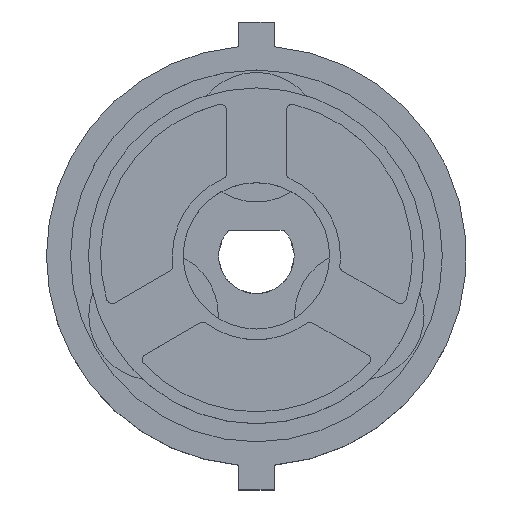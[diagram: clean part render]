
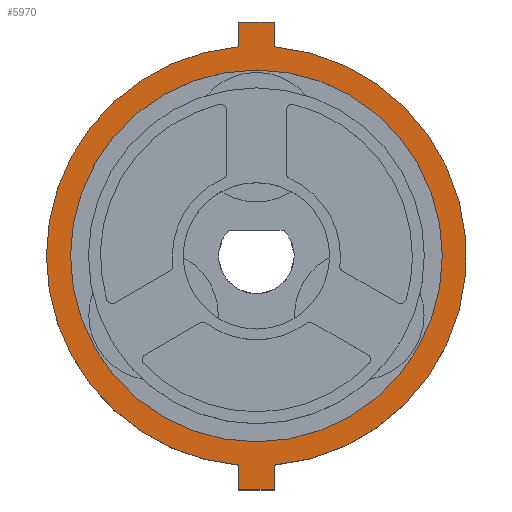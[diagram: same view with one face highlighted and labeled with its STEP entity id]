
A CAD part, top view. The second image highlights one B-rep face of the part: STEP entity #5970.
In plain terms, the highlighted planar face has unit normal (0, 0, 1).
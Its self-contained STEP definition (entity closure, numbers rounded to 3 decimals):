
#133 = CARTESIAN_POINT ( 'NONE',  ( 1.5, 17.436, 4.5 ) ) ;
#269 = ORIENTED_EDGE ( 'NONE', *, *, #2002, .F. ) ;
#280 = EDGE_CURVE ( 'NONE', #343, #1226, #4141, .T. ) ;
#315 = VECTOR ( 'NONE', #8047, 1000. ) ;
#343 = VERTEX_POINT ( 'NONE', #5488 ) ;
#613 = ORIENTED_EDGE ( 'NONE', *, *, #280, .T. ) ;
#653 = LINE ( 'NONE', #1186, #1272 ) ;
#882 = ORIENTED_EDGE ( 'NONE', *, *, #2688, .T. ) ;
#1044 = EDGE_CURVE ( 'NONE', #7373, #343, #4027, .T. ) ;
#1056 = ORIENTED_EDGE ( 'NONE', *, *, #2493, .T. ) ;
#1096 = AXIS2_PLACEMENT_3D ( 'NONE', #6763, #4654, #3449 ) ;
#1122 = CARTESIAN_POINT ( 'NONE',  ( -17.5, 0., 4.5 ) ) ;
#1179 = VERTEX_POINT ( 'NONE', #5684 ) ;
#1186 = CARTESIAN_POINT ( 'NONE',  ( -1.5, 19.5, 4.5 ) ) ;
#1211 = CARTESIAN_POINT ( 'NONE',  ( 0., 0., 4.5 ) ) ;
#1226 = VERTEX_POINT ( 'NONE', #8268 ) ;
#1234 = DIRECTION ( 'NONE',  ( -1., 0., 0. ) ) ;
#1272 = VECTOR ( 'NONE', #1234, 1000. ) ;
#1325 = CARTESIAN_POINT ( 'NONE',  ( 0., 0., 4.5 ) ) ;
#1351 = VECTOR ( 'NONE', #8202, 1000. ) ;
#1434 = VECTOR ( 'NONE', #7063, 1000. ) ;
#1583 = ORIENTED_EDGE ( 'NONE', *, *, #3667, .T. ) ;
#1650 = DIRECTION ( 'NONE',  ( 1., 0., 0. ) ) ;
#1669 = EDGE_CURVE ( 'NONE', #3359, #7373, #5499, .T. ) ;
#1742 = ORIENTED_EDGE ( 'NONE', *, *, #7547, .T. ) ;
#1757 = EDGE_CURVE ( 'NONE', #3383, #3626, #7760, .T. ) ;
#1933 = DIRECTION ( 'NONE',  ( 0., 0., 1. ) ) ;
#2002 = EDGE_CURVE ( 'NONE', #2067, #2617, #6772, .T. ) ;
#2067 = VERTEX_POINT ( 'NONE', #5118 ) ;
#2166 = CARTESIAN_POINT ( 'NONE',  ( 0., 0., 4.5 ) ) ;
#2191 = LINE ( 'NONE', #133, #3308 ) ;
#2286 = VERTEX_POINT ( 'NONE', #4609 ) ;
#2483 = CARTESIAN_POINT ( 'NONE',  ( 1.5, -19.5, 4.5 ) ) ;
#2493 = EDGE_CURVE ( 'NONE', #1226, #2286, #2191, .T. ) ;
#2617 = VERTEX_POINT ( 'NONE', #2758 ) ;
#2679 = CARTESIAN_POINT ( 'NONE',  ( 1.5, -19.5, 4.5 ) ) ;
#2688 = EDGE_CURVE ( 'NONE', #3626, #3359, #6071, .T. ) ;
#2758 = CARTESIAN_POINT ( 'NONE',  ( -15.5, 0., 4.5 ) ) ;
#2819 = CARTESIAN_POINT ( 'NONE',  ( -1.5, -17.436, 4.5 ) ) ;
#3308 = VECTOR ( 'NONE', #4973, 1000. ) ;
#3359 = VERTEX_POINT ( 'NONE', #3802 ) ;
#3383 = VERTEX_POINT ( 'NONE', #1122 ) ;
#3449 = DIRECTION ( 'NONE',  ( 1., 0., 0. ) ) ;
#3626 = VERTEX_POINT ( 'NONE', #2819 ) ;
#3653 = CARTESIAN_POINT ( 'NONE',  ( -1.5, -19.5, 4.5 ) ) ;
#3667 = EDGE_CURVE ( 'NONE', #1179, #3383, #4223, .T. ) ;
#3757 = ORIENTED_EDGE ( 'NONE', *, *, #1044, .T. ) ;
#3802 = CARTESIAN_POINT ( 'NONE',  ( -1.5, -19.5, 4.5 ) ) ;
#4027 = LINE ( 'NONE', #2679, #315 ) ;
#4089 = DIRECTION ( 'NONE',  ( 1., 0., 0. ) ) ;
#4135 = VECTOR ( 'NONE', #6014, 1000. ) ;
#4140 = DIRECTION ( 'NONE',  ( 0., 0., 1. ) ) ;
#4141 = CIRCLE ( 'NONE', #6148, 17.5 ) ;
#4142 = AXIS2_PLACEMENT_3D ( 'NONE', #1211, #1933, #7299 ) ;
#4194 = AXIS2_PLACEMENT_3D ( 'NONE', #7771, #7864, #1650 ) ;
#4223 = CIRCLE ( 'NONE', #5369, 17.5 ) ;
#4395 = DIRECTION ( 'NONE',  ( 1., 0., 0. ) ) ;
#4609 = CARTESIAN_POINT ( 'NONE',  ( 1.5, 19.5, 4.5 ) ) ;
#4654 = DIRECTION ( 'NONE',  ( 0., 0., 1. ) ) ;
#4667 = CARTESIAN_POINT ( 'NONE',  ( -1.5, 17.436, 4.5 ) ) ;
#4793 = FACE_OUTER_BOUND ( 'NONE', #7437, .T. ) ;
#4901 = ORIENTED_EDGE ( 'NONE', *, *, #1757, .T. ) ;
#4973 = DIRECTION ( 'NONE',  ( 0., 1., 0. ) ) ;
#5047 = EDGE_LOOP ( 'NONE', ( #269, #5930 ) ) ;
#5118 = CARTESIAN_POINT ( 'NONE',  ( 15.5, 0., 4.5 ) ) ;
#5369 = AXIS2_PLACEMENT_3D ( 'NONE', #7605, #5637, #7562 ) ;
#5488 = CARTESIAN_POINT ( 'NONE',  ( 1.5, -17.436, 4.5 ) ) ;
#5499 = LINE ( 'NONE', #3653, #1434 ) ;
#5637 = DIRECTION ( 'NONE',  ( 0., 0., 1. ) ) ;
#5684 = CARTESIAN_POINT ( 'NONE',  ( -1.5, 17.436, 4.5 ) ) ;
#5930 = ORIENTED_EDGE ( 'NONE', *, *, #8321, .F. ) ;
#5970 = ADVANCED_FACE ( 'NONE', ( #8097, #4793 ), #7521, .T. ) ;
#6014 = DIRECTION ( 'NONE',  ( 0., -1., 0. ) ) ;
#6071 = LINE ( 'NONE', #8788, #1351 ) ;
#6148 = AXIS2_PLACEMENT_3D ( 'NONE', #1325, #4140, #4089 ) ;
#6678 = ORIENTED_EDGE ( 'NONE', *, *, #1669, .T. ) ;
#6685 = LINE ( 'NONE', #4667, #4135 ) ;
#6690 = ORIENTED_EDGE ( 'NONE', *, *, #7938, .T. ) ;
#6763 = CARTESIAN_POINT ( 'NONE',  ( 0., 0., 4.5 ) ) ;
#6772 = CIRCLE ( 'NONE', #7198, 15.5 ) ;
#7004 = VERTEX_POINT ( 'NONE', #7117 ) ;
#7063 = DIRECTION ( 'NONE',  ( 1., 0., 0. ) ) ;
#7117 = CARTESIAN_POINT ( 'NONE',  ( -1.5, 19.5, 4.5 ) ) ;
#7198 = AXIS2_PLACEMENT_3D ( 'NONE', #2166, #7620, #4395 ) ;
#7299 = DIRECTION ( 'NONE',  ( 1., 0., 0. ) ) ;
#7373 = VERTEX_POINT ( 'NONE', #2483 ) ;
#7437 = EDGE_LOOP ( 'NONE', ( #613, #1056, #1742, #6690, #1583, #4901, #882, #6678, #3757 ) ) ;
#7521 = PLANE ( 'NONE',  #1096 ) ;
#7547 = EDGE_CURVE ( 'NONE', #2286, #7004, #653, .T. ) ;
#7562 = DIRECTION ( 'NONE',  ( 1., 0., 0. ) ) ;
#7605 = CARTESIAN_POINT ( 'NONE',  ( 0., 0., 4.5 ) ) ;
#7620 = DIRECTION ( 'NONE',  ( 0., 0., 1. ) ) ;
#7760 = CIRCLE ( 'NONE', #4194, 17.5 ) ;
#7771 = CARTESIAN_POINT ( 'NONE',  ( 0., 0., 4.5 ) ) ;
#7864 = DIRECTION ( 'NONE',  ( 0., 0., 1. ) ) ;
#7938 = EDGE_CURVE ( 'NONE', #7004, #1179, #6685, .T. ) ;
#8047 = DIRECTION ( 'NONE',  ( 0., 1., 0. ) ) ;
#8097 = FACE_BOUND ( 'NONE', #5047, .T. ) ;
#8202 = DIRECTION ( 'NONE',  ( 0., -1., 0. ) ) ;
#8268 = CARTESIAN_POINT ( 'NONE',  ( 1.5, 17.436, 4.5 ) ) ;
#8321 = EDGE_CURVE ( 'NONE', #2617, #2067, #8848, .T. ) ;
#8788 = CARTESIAN_POINT ( 'NONE',  ( -1.5, -19.5, 4.5 ) ) ;
#8848 = CIRCLE ( 'NONE', #4142, 15.5 ) ;
